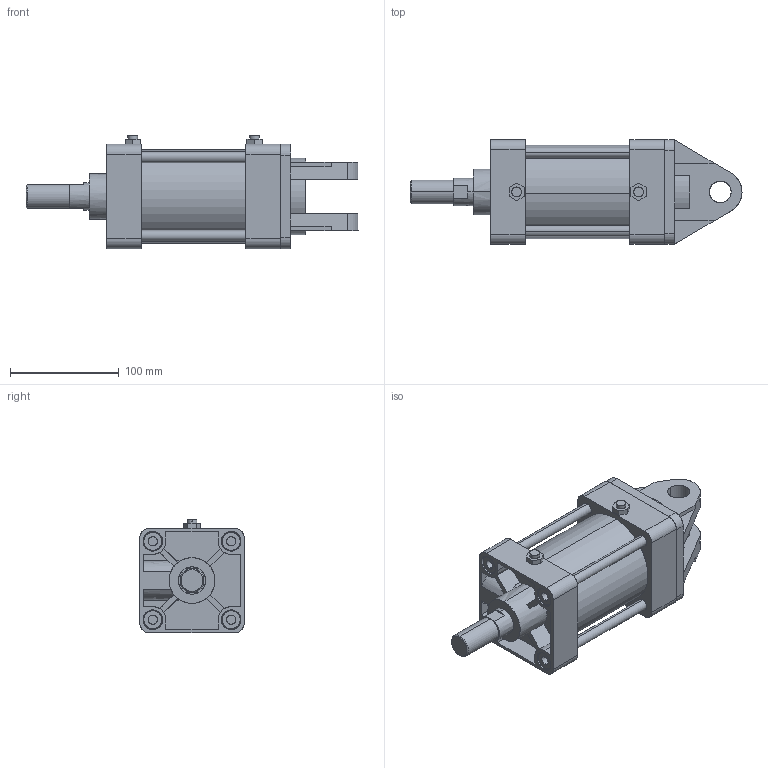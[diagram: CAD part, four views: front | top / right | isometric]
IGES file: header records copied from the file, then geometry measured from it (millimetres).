
Start section: SolidWorks IGES file using analytic representation for surfaces
Global section: file name: C:\Users\Toshiba\Desktop\KG2-80-50-W.IGS; native system: SolidWorks 2014; preprocessor: SolidWorks 2014; author: Toshiba; date: 160401.162126; units: millimetre
Bounding box: 305 x 96 x 104.3 mm (x, y, z)
Surface area: 209766.4 mm2 (no closed solid volume)
Topology: 0 solids, 0 shells, 360 faces, 5566 edges, 5562 vertices
Faces by surface type: bspline 193, revolution 167
